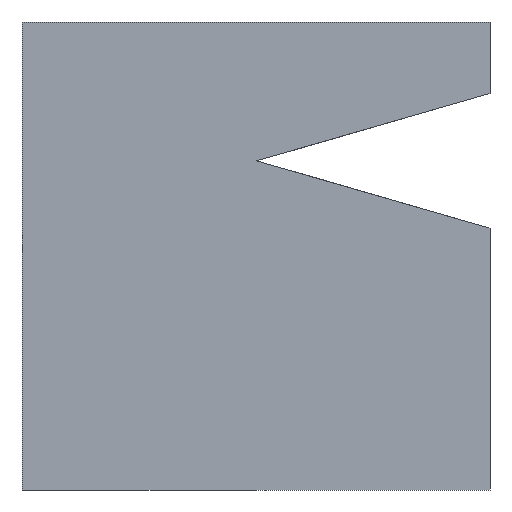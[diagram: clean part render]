
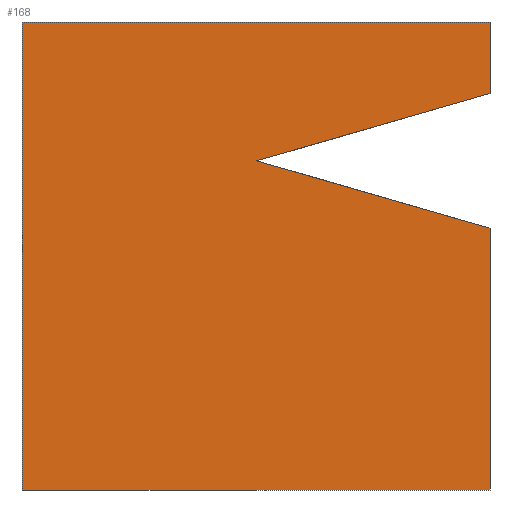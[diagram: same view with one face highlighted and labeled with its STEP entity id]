
A CAD part, left-side view. The second image highlights one B-rep face of the part: STEP entity #168.
In plain terms, the highlighted planar face has unit normal (-1, 0, 0).
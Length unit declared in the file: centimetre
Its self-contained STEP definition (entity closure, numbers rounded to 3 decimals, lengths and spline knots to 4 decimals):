
#4 = DIRECTION ( 'NONE',  ( 1., 0., 0. ) ) ;
#12 = LINE ( 'NONE', #428, #565 ) ;
#27 = VERTEX_POINT ( 'NONE', #559 ) ;
#38 = VERTEX_POINT ( 'NONE', #247 ) ;
#47 = LINE ( 'NONE', #49, #245 ) ;
#49 = CARTESIAN_POINT ( 'NONE',  ( 0., 498.6656, 703.3496 ) ) ;
#50 = FACE_OUTER_BOUND ( 'NONE', #335, .T. ) ;
#53 = EDGE_CURVE ( 'NONE', #383, #171, #610, .T. ) ;
#61 = EDGE_CURVE ( 'NONE', #165, #217, #461, .T. ) ;
#62 = DIRECTION ( 'NONE',  ( 0., -1., 0. ) ) ;
#72 = LINE ( 'NONE', #368, #137 ) ;
#78 = ORIENTED_EDGE ( 'NONE', *, *, #454, .F. ) ;
#123 = CARTESIAN_POINT ( 'NONE',  ( 0., 0., 1000. ) ) ;
#136 = ORIENTED_EDGE ( 'NONE', *, *, #53, .F. ) ;
#137 = VECTOR ( 'NONE', #62, 100. ) ;
#140 = ORIENTED_EDGE ( 'NONE', *, *, #187, .F. ) ;
#156 = DIRECTION ( 'NONE',  ( 0., -0.961, -0.277 ) ) ;
#165 = VERTEX_POINT ( 'NONE', #294 ) ;
#168 = ADVANCED_FACE ( 'NONE', ( #50 ), #253, .F. ) ;
#171 = VERTEX_POINT ( 'NONE', #222 ) ;
#187 = EDGE_CURVE ( 'NONE', #165, #27, #12, .T. ) ;
#190 = VERTEX_POINT ( 'NONE', #526 ) ;
#206 = CARTESIAN_POINT ( 'NONE',  ( 0., 498.6656, 703.3496 ) ) ;
#217 = VERTEX_POINT ( 'NONE', #271 ) ;
#218 = LINE ( 'NONE', #123, #613 ) ;
#220 = DIRECTION ( 'NONE',  ( 0., 0., -1. ) ) ;
#222 = CARTESIAN_POINT ( 'NONE',  ( 0., 0., 559.5432 ) ) ;
#224 = CARTESIAN_POINT ( 'NONE',  ( 0., 0., 1000. ) ) ;
#245 = VECTOR ( 'NONE', #305, 100. ) ;
#247 = CARTESIAN_POINT ( 'NONE',  ( 0., 0., 847.1561 ) ) ;
#253 = PLANE ( 'NONE',  #397 ) ;
#263 = DIRECTION ( 'NONE',  ( 0., 0., -1. ) ) ;
#271 = CARTESIAN_POINT ( 'NONE',  ( 0., 1000., 0. ) ) ;
#294 = CARTESIAN_POINT ( 'NONE',  ( 0., 1000., 1000. ) ) ;
#305 = DIRECTION ( 'NONE',  ( 0., 0.961, -0.277 ) ) ;
#319 = EDGE_CURVE ( 'NONE', #38, #383, #47, .T. ) ;
#326 = LINE ( 'NONE', #224, #500 ) ;
#334 = VECTOR ( 'NONE', #409, 100. ) ;
#335 = EDGE_LOOP ( 'NONE', ( #381, #136, #422, #78, #140, #477, #524 ) ) ;
#368 = CARTESIAN_POINT ( 'NONE',  ( 0., 1000., 0. ) ) ;
#371 = DIRECTION ( 'NONE',  ( 0., -1., 0. ) ) ;
#381 = ORIENTED_EDGE ( 'NONE', *, *, #542, .F. ) ;
#383 = VERTEX_POINT ( 'NONE', #206 ) ;
#397 = AXIS2_PLACEMENT_3D ( 'NONE', #459, #4, #614 ) ;
#409 = DIRECTION ( 'NONE',  ( 0., 0., -1. ) ) ;
#422 = ORIENTED_EDGE ( 'NONE', *, *, #319, .F. ) ;
#428 = CARTESIAN_POINT ( 'NONE',  ( 0., 1000., 1000. ) ) ;
#437 = EDGE_CURVE ( 'NONE', #217, #190, #72, .T. ) ;
#454 = EDGE_CURVE ( 'NONE', #27, #38, #326, .T. ) ;
#459 = CARTESIAN_POINT ( 'NONE',  ( 0., 1000., 1000. ) ) ;
#461 = LINE ( 'NONE', #607, #334 ) ;
#477 = ORIENTED_EDGE ( 'NONE', *, *, #61, .T. ) ;
#500 = VECTOR ( 'NONE', #220, 100. ) ;
#501 = CARTESIAN_POINT ( 'NONE',  ( 0., 0., 559.5432 ) ) ;
#524 = ORIENTED_EDGE ( 'NONE', *, *, #437, .T. ) ;
#526 = CARTESIAN_POINT ( 'NONE',  ( 0., 0., 0. ) ) ;
#542 = EDGE_CURVE ( 'NONE', #171, #190, #218, .T. ) ;
#559 = CARTESIAN_POINT ( 'NONE',  ( 0., 0., 1000. ) ) ;
#565 = VECTOR ( 'NONE', #371, 100. ) ;
#607 = CARTESIAN_POINT ( 'NONE',  ( 0., 1000., 1000. ) ) ;
#610 = LINE ( 'NONE', #501, #622 ) ;
#613 = VECTOR ( 'NONE', #263, 100. ) ;
#614 = DIRECTION ( 'NONE',  ( 0., 0., -1. ) ) ;
#622 = VECTOR ( 'NONE', #156, 100. ) ;
